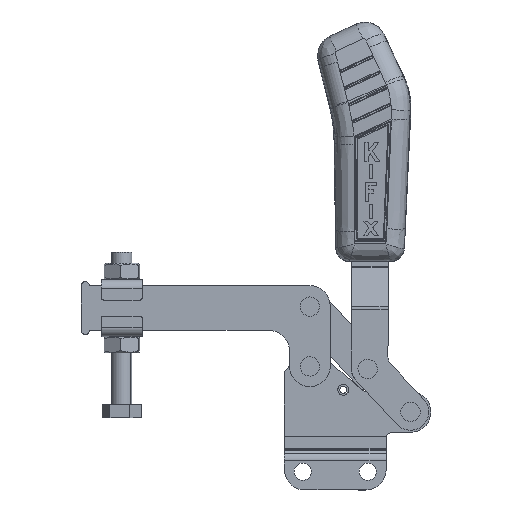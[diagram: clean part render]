
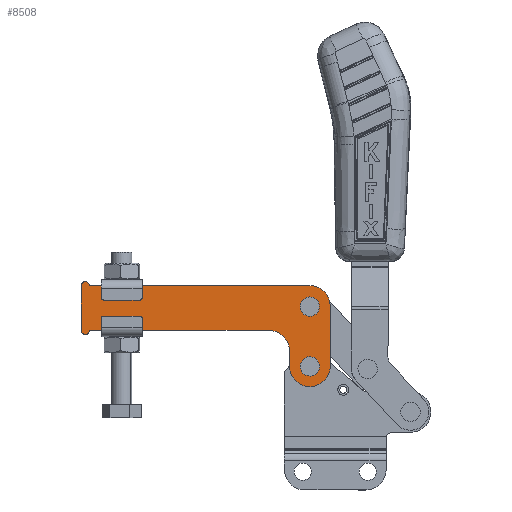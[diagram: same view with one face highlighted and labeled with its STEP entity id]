
A CAD part, top view. The second image highlights one B-rep face of the part: STEP entity #8508.
In plain terms, the highlighted planar face has unit normal (0, 0, 1) as drawn and (0, 0, -1) by its records, which use the part's own axes.
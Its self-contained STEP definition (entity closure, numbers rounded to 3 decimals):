
#181 = CARTESIAN_POINT ( 'NONE',  ( 65.5, -0.7, -4.25 ) ) ;
#409 = DIRECTION ( 'NONE',  ( 0., 0., 1. ) ) ;
#445 = EDGE_LOOP ( 'NONE', ( #23180, #21053, #19150, #15480, #2900, #7213, #16800, #24773, #9540, #11776 ) ) ;
#484 = VECTOR ( 'NONE', #735, 1000. ) ;
#632 = CARTESIAN_POINT ( 'NONE',  ( 79.5, -1., -4.25 ) ) ;
#691 = EDGE_CURVE ( 'NONE', #6564, #19182, #18327, .T. ) ;
#730 = DIRECTION ( 'NONE',  ( 0., 1., 0. ) ) ;
#735 = DIRECTION ( 'NONE',  ( -1., 0., 0. ) ) ;
#1115 = LINE ( 'NONE', #4679, #484 ) ;
#1312 = DIRECTION ( 'NONE',  ( 0., -1., 0. ) ) ;
#1675 = DIRECTION ( 'NONE',  ( 0., 0., 1. ) ) ;
#2015 = AXIS2_PLACEMENT_3D ( 'NONE', #19265, #7228, #21287 ) ;
#2559 = CARTESIAN_POINT ( 'NONE',  ( 49.5, 11., -4.25 ) ) ;
#2788 = DIRECTION ( 'NONE',  ( 1., 0., 0. ) ) ;
#2843 = VERTEX_POINT ( 'NONE', #2559 ) ;
#2900 = ORIENTED_EDGE ( 'NONE', *, *, #11909, .F. ) ;
#2992 = AXIS2_PLACEMENT_3D ( 'NONE', #3238, #17283, #5255 ) ;
#3238 = CARTESIAN_POINT ( 'NONE',  ( 69.5, -0.7, -4.25 ) ) ;
#3566 = ORIENTED_EDGE ( 'NONE', *, *, #17428, .T. ) ;
#4022 = DIRECTION ( 'NONE',  ( 0., 0., -1. ) ) ;
#4679 = CARTESIAN_POINT ( 'NONE',  ( 49.5, 11., -4.25 ) ) ;
#4762 = CIRCLE ( 'NONE', #13764, 10. ) ;
#4987 = VECTOR ( 'NONE', #5741, 1000. ) ;
#5036 = DIRECTION ( 'NONE',  ( 0., 0., 1. ) ) ;
#5255 = DIRECTION ( 'NONE',  ( 1., 0., 0. ) ) ;
#5256 = LINE ( 'NONE', #19387, #6650 ) ;
#5473 = AXIS2_PLACEMENT_3D ( 'NONE', #5925, #19963, #7941 ) ;
#5500 = EDGE_CURVE ( 'NONE', #7517, #5719, #15992, .T. ) ;
#5664 = CIRCLE ( 'NONE', #22503, 4. ) ;
#5719 = VERTEX_POINT ( 'NONE', #13954 ) ;
#5741 = DIRECTION ( 'NONE',  ( 1., 0., 0. ) ) ;
#5925 = CARTESIAN_POINT ( 'NONE',  ( 69.5, 28.7, -4.25 ) ) ;
#5962 = FACE_OUTER_BOUND ( 'NONE', #445, .T. ) ;
#6564 = VERTEX_POINT ( 'NONE', #25391 ) ;
#6650 = VECTOR ( 'NONE', #7349, 1000. ) ;
#6654 = AXIS2_PLACEMENT_3D ( 'NONE', #12375, #16694, #2788 ) ;
#6871 = EDGE_LOOP ( 'NONE', ( #3566, #20591 ) ) ;
#6967 = EDGE_CURVE ( 'NONE', #8519, #6564, #5256, .T. ) ;
#7102 = EDGE_CURVE ( 'NONE', #10597, #2843, #4762, .T. ) ;
#7123 = CARTESIAN_POINT ( 'NONE',  ( 79.5, 28.7, -4.25 ) ) ;
#7213 = ORIENTED_EDGE ( 'NONE', *, *, #17154, .F. ) ;
#7228 = DIRECTION ( 'NONE',  ( 0., 0., 1. ) ) ;
#7349 = DIRECTION ( 'NONE',  ( 0., -1., 0. ) ) ;
#7517 = VERTEX_POINT ( 'NONE', #12079 ) ;
#7693 = CARTESIAN_POINT ( 'NONE',  ( 73.5, -0.7, -4.25 ) ) ;
#7941 = DIRECTION ( 'NONE',  ( 1., 0., 0. ) ) ;
#8186 = EDGE_CURVE ( 'NONE', #5719, #7517, #5664, .T. ) ;
#8508 = ADVANCED_FACE ( 'NONE', ( #20741, #15403, #5962 ), #11234, .T. ) ;
#8519 = VERTEX_POINT ( 'NONE', #20094 ) ;
#9314 = CARTESIAN_POINT ( 'NONE',  ( 59.5, 28.7, -4.25 ) ) ;
#9540 = ORIENTED_EDGE ( 'NONE', *, *, #691, .F. ) ;
#9712 = VERTEX_POINT ( 'NONE', #7693 ) ;
#9817 = CARTESIAN_POINT ( 'NONE',  ( 49.5, 21., -4.25 ) ) ;
#9906 = LINE ( 'NONE', #9314, #14622 ) ;
#10097 = AXIS2_PLACEMENT_3D ( 'NONE', #13729, #1675, #15735 ) ;
#10192 = VERTEX_POINT ( 'NONE', #11861 ) ;
#10486 = DIRECTION ( 'NONE',  ( 0., 0., 1. ) ) ;
#10591 = EDGE_CURVE ( 'NONE', #19182, #18774, #21023, .T. ) ;
#10597 = VERTEX_POINT ( 'NONE', #25852 ) ;
#10640 = CARTESIAN_POINT ( 'NONE',  ( 69.5, -11., -4.25 ) ) ;
#11234 = PLANE ( 'NONE',  #12099 ) ;
#11546 = AXIS2_PLACEMENT_3D ( 'NONE', #12472, #409, #14481 ) ;
#11776 = ORIENTED_EDGE ( 'NONE', *, *, #6967, .F. ) ;
#11857 = DIRECTION ( 'NONE',  ( 1., 0., 0. ) ) ;
#11861 = CARTESIAN_POINT ( 'NONE',  ( 59.5, 28.7, -4.25 ) ) ;
#11909 = EDGE_CURVE ( 'NONE', #17333, #10192, #18121, .T. ) ;
#12047 = CARTESIAN_POINT ( 'NONE',  ( 2., 11., -4.25 ) ) ;
#12079 = CARTESIAN_POINT ( 'NONE',  ( 73.5, 28.7, -4.25 ) ) ;
#12099 = AXIS2_PLACEMENT_3D ( 'NONE', #12047, #4022, #18067 ) ;
#12375 = CARTESIAN_POINT ( 'NONE',  ( -41., -11., -4.25 ) ) ;
#12472 = CARTESIAN_POINT ( 'NONE',  ( 69.5, -1., -4.25 ) ) ;
#12494 = ORIENTED_EDGE ( 'NONE', *, *, #8186, .T. ) ;
#12981 = EDGE_CURVE ( 'NONE', #2843, #23740, #1115, .T. ) ;
#13247 = AXIS2_PLACEMENT_3D ( 'NONE', #17072, #5036, #19082 ) ;
#13729 = CARTESIAN_POINT ( 'NONE',  ( 69.5, -0.7, -4.25 ) ) ;
#13764 = AXIS2_PLACEMENT_3D ( 'NONE', #9817, #23860, #11857 ) ;
#13834 = CIRCLE ( 'NONE', #10097, 4. ) ;
#13873 = EDGE_CURVE ( 'NONE', #14633, #9712, #15879, .T. ) ;
#13954 = CARTESIAN_POINT ( 'NONE',  ( 65.5, 28.7, -4.25 ) ) ;
#14481 = DIRECTION ( 'NONE',  ( 1., 0., 0. ) ) ;
#14622 = VECTOR ( 'NONE', #1312, 1000. ) ;
#14633 = VERTEX_POINT ( 'NONE', #181 ) ;
#15403 = FACE_BOUND ( 'NONE', #15598, .T. ) ;
#15480 = ORIENTED_EDGE ( 'NONE', *, *, #23850, .F. ) ;
#15483 = CIRCLE ( 'NONE', #2015, 2. ) ;
#15598 = EDGE_LOOP ( 'NONE', ( #16852, #12494 ) ) ;
#15735 = DIRECTION ( 'NONE',  ( 1., 0., 0. ) ) ;
#15879 = CIRCLE ( 'NONE', #2992, 4. ) ;
#15992 = CIRCLE ( 'NONE', #5473, 4. ) ;
#16380 = EDGE_CURVE ( 'NONE', #23740, #8519, #15483, .T. ) ;
#16694 = DIRECTION ( 'NONE',  ( 0., 0., 1. ) ) ;
#16800 = ORIENTED_EDGE ( 'NONE', *, *, #21425, .F. ) ;
#16852 = ORIENTED_EDGE ( 'NONE', *, *, #5500, .T. ) ;
#17072 = CARTESIAN_POINT ( 'NONE',  ( 69.5, 28.7, -4.25 ) ) ;
#17154 = EDGE_CURVE ( 'NONE', #18922, #17333, #22928, .T. ) ;
#17283 = DIRECTION ( 'NONE',  ( 0., 0., 1. ) ) ;
#17333 = VERTEX_POINT ( 'NONE', #7123 ) ;
#17428 = EDGE_CURVE ( 'NONE', #9712, #14633, #13834, .T. ) ;
#17584 = VECTOR ( 'NONE', #730, 1000. ) ;
#18067 = DIRECTION ( 'NONE',  ( -1., 0., 0. ) ) ;
#18121 = CIRCLE ( 'NONE', #13247, 10. ) ;
#18327 = CIRCLE ( 'NONE', #6654, 2. ) ;
#18686 = CIRCLE ( 'NONE', #11546, 10. ) ;
#18774 = VERTEX_POINT ( 'NONE', #10640 ) ;
#18922 = VERTEX_POINT ( 'NONE', #19039 ) ;
#19039 = CARTESIAN_POINT ( 'NONE',  ( 79.5, -1., -4.25 ) ) ;
#19082 = DIRECTION ( 'NONE',  ( 1., 0., 0. ) ) ;
#19150 = ORIENTED_EDGE ( 'NONE', *, *, #7102, .F. ) ;
#19182 = VERTEX_POINT ( 'NONE', #25882 ) ;
#19265 = CARTESIAN_POINT ( 'NONE',  ( -41., 11., -4.25 ) ) ;
#19387 = CARTESIAN_POINT ( 'NONE',  ( -43., 11., -4.25 ) ) ;
#19963 = DIRECTION ( 'NONE',  ( 0., 0., 1. ) ) ;
#20094 = CARTESIAN_POINT ( 'NONE',  ( -43., 11., -4.25 ) ) ;
#20591 = ORIENTED_EDGE ( 'NONE', *, *, #13873, .T. ) ;
#20741 = FACE_BOUND ( 'NONE', #6871, .T. ) ;
#21023 = LINE ( 'NONE', #25775, #4987 ) ;
#21053 = ORIENTED_EDGE ( 'NONE', *, *, #12981, .F. ) ;
#21287 = DIRECTION ( 'NONE',  ( -1., 0., 0. ) ) ;
#21425 = EDGE_CURVE ( 'NONE', #18774, #18922, #18686, .T. ) ;
#22494 = CARTESIAN_POINT ( 'NONE',  ( 69.5, 28.7, -4.25 ) ) ;
#22503 = AXIS2_PLACEMENT_3D ( 'NONE', #22494, #10486, #24522 ) ;
#22835 = CARTESIAN_POINT ( 'NONE',  ( -39., 11., -4.25 ) ) ;
#22928 = LINE ( 'NONE', #632, #17584 ) ;
#23180 = ORIENTED_EDGE ( 'NONE', *, *, #16380, .F. ) ;
#23740 = VERTEX_POINT ( 'NONE', #22835 ) ;
#23850 = EDGE_CURVE ( 'NONE', #10192, #10597, #9906, .T. ) ;
#23860 = DIRECTION ( 'NONE',  ( 0., 0., -1. ) ) ;
#24522 = DIRECTION ( 'NONE',  ( 1., 0., 0. ) ) ;
#24773 = ORIENTED_EDGE ( 'NONE', *, *, #10591, .F. ) ;
#25391 = CARTESIAN_POINT ( 'NONE',  ( -43., -11., -4.25 ) ) ;
#25775 = CARTESIAN_POINT ( 'NONE',  ( 4., -11., -4.25 ) ) ;
#25852 = CARTESIAN_POINT ( 'NONE',  ( 59.5, 21., -4.25 ) ) ;
#25882 = CARTESIAN_POINT ( 'NONE',  ( -39., -11., -4.25 ) ) ;
